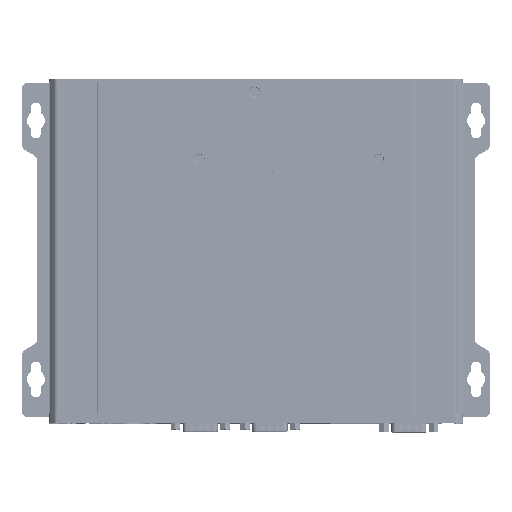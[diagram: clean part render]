
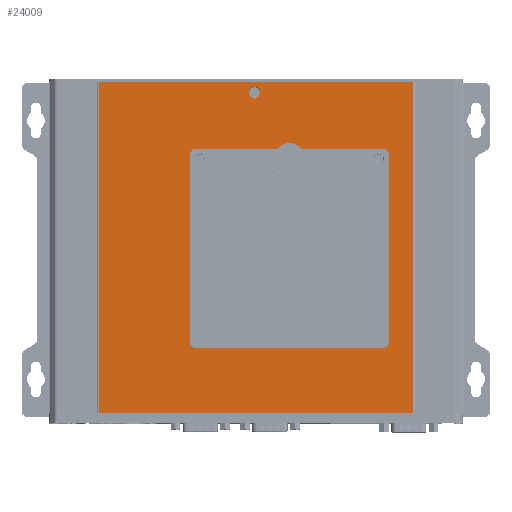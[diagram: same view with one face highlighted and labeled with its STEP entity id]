
A CAD part, top view. The second image highlights one B-rep face of the part: STEP entity #24009.
In plain terms, the highlighted planar face has unit normal (0, 0, 1).
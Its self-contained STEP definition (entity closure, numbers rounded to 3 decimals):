
#24009=ADVANCED_FACE('',(#41194,#41195,#41196),#30401,.F.);
#30401=PLANE('',#207687);
#41194=FACE_BOUND('',#50816,.T.);
#41195=FACE_BOUND('',#50817,.T.);
#41196=FACE_BOUND('',#50818,.T.);
#50816=EDGE_LOOP('',(#137190,#137191,#137192,#137193,#137194,#137195,#137196,
#137197,#137198,#137199,#137200,#137201));
#50817=EDGE_LOOP('',(#137202));
#50818=EDGE_LOOP('',(#137203,#137204,#137205,#137206));
#52661=LINE('',#253760,#70227);
#68106=LINE('',#347838,#87497);
#68107=LINE('',#347843,#87498);
#68108=LINE('',#347851,#87499);
#68109=LINE('',#347855,#87500);
#68110=LINE('',#347859,#87501);
#68111=LINE('',#347864,#87502);
#68112=LINE('',#347867,#87503);
#68113=LINE('',#347868,#87504);
#70227=VECTOR('',#209876,1.);
#87497=VECTOR('',#247272,1.);
#87498=VECTOR('',#247275,1.);
#87499=VECTOR('',#247282,1.);
#87500=VECTOR('',#247285,1.);
#87501=VECTOR('',#247288,1.);
#87502=VECTOR('',#247293,1.);
#87503=VECTOR('',#247294,1.);
#87504=VECTOR('',#247295,1.);
#137190=ORIENTED_EDGE('',*,*,#191069,.F.);
#137191=ORIENTED_EDGE('',*,*,#191070,.T.);
#137192=ORIENTED_EDGE('',*,*,#191071,.F.);
#137193=ORIENTED_EDGE('',*,*,#191072,.F.);
#137194=ORIENTED_EDGE('',*,*,#191073,.T.);
#137195=ORIENTED_EDGE('',*,*,#191074,.F.);
#137196=ORIENTED_EDGE('',*,*,#191075,.F.);
#137197=ORIENTED_EDGE('',*,*,#191076,.T.);
#137198=ORIENTED_EDGE('',*,*,#191077,.F.);
#137199=ORIENTED_EDGE('',*,*,#191078,.T.);
#137200=ORIENTED_EDGE('',*,*,#191079,.F.);
#137201=ORIENTED_EDGE('',*,*,#191080,.T.);
#137202=ORIENTED_EDGE('',*,*,#191081,.T.);
#137203=ORIENTED_EDGE('',*,*,#191082,.F.);
#137204=ORIENTED_EDGE('',*,*,#191083,.T.);
#137205=ORIENTED_EDGE('',*,*,#165488,.F.);
#137206=ORIENTED_EDGE('',*,*,#191084,.T.);
#146805=VERTEX_POINT('',#253759);
#146806=VERTEX_POINT('',#253761);
#164137=VERTEX_POINT('',#347839);
#164138=VERTEX_POINT('',#347840);
#164139=VERTEX_POINT('',#347842);
#164140=VERTEX_POINT('',#347844);
#164141=VERTEX_POINT('',#347846);
#164142=VERTEX_POINT('',#347848);
#164143=VERTEX_POINT('',#347850);
#164144=VERTEX_POINT('',#347852);
#164145=VERTEX_POINT('',#347854);
#164146=VERTEX_POINT('',#347856);
#164147=VERTEX_POINT('',#347858);
#164148=VERTEX_POINT('',#347860);
#164149=VERTEX_POINT('',#347863);
#164150=VERTEX_POINT('',#347865);
#164151=VERTEX_POINT('',#347866);
#165488=EDGE_CURVE('',#146805,#146806,#52661,.T.);
#191069=EDGE_CURVE('',#164137,#164138,#68106,.T.);
#191070=EDGE_CURVE('',#164137,#164139,#197158,.T.);
#191071=EDGE_CURVE('',#164140,#164139,#68107,.T.);
#191072=EDGE_CURVE('',#164141,#164140,#197159,.T.);
#191073=EDGE_CURVE('',#164141,#164142,#197160,.T.);
#191074=EDGE_CURVE('',#164143,#164142,#197161,.T.);
#191075=EDGE_CURVE('',#164144,#164143,#68108,.T.);
#191076=EDGE_CURVE('',#164144,#164145,#197162,.T.);
#191077=EDGE_CURVE('',#164146,#164145,#68109,.T.);
#191078=EDGE_CURVE('',#164146,#164147,#197163,.T.);
#191079=EDGE_CURVE('',#164148,#164147,#68110,.T.);
#191080=EDGE_CURVE('',#164148,#164138,#197164,.T.);
#191081=EDGE_CURVE('',#164149,#164149,#197165,.T.);
#191082=EDGE_CURVE('',#164150,#164151,#68111,.T.);
#191083=EDGE_CURVE('',#164150,#146806,#68112,.T.);
#191084=EDGE_CURVE('',#146805,#164151,#68113,.T.);
#197158=CIRCLE('',#207679,3.3);
#197159=CIRCLE('',#207680,1.7);
#197160=CIRCLE('',#207681,7.);
#197161=CIRCLE('',#207682,1.7);
#197162=CIRCLE('',#207683,3.3);
#197163=CIRCLE('',#207684,3.3);
#197164=CIRCLE('',#207685,3.3);
#197165=CIRCLE('',#207686,2.75);
#207679=AXIS2_PLACEMENT_3D('',#347841,#247273,#247274);
#207680=AXIS2_PLACEMENT_3D('',#347845,#247276,#247277);
#207681=AXIS2_PLACEMENT_3D('',#347847,#247278,#247279);
#207682=AXIS2_PLACEMENT_3D('',#347849,#247280,#247281);
#207683=AXIS2_PLACEMENT_3D('',#347853,#247283,#247284);
#207684=AXIS2_PLACEMENT_3D('',#347857,#247286,#247287);
#207685=AXIS2_PLACEMENT_3D('',#347861,#247289,#247290);
#207686=AXIS2_PLACEMENT_3D('',#347862,#247291,#247292);
#207687=AXIS2_PLACEMENT_3D('',#347869,#247296,#247297);
#209876=DIRECTION('',(-1.,0.,0.));
#247272=DIRECTION('',(0.,-1.,0.));
#247273=DIRECTION('',(0.,0.,-1.));
#247274=DIRECTION('',(-1.,0.,0.));
#247275=DIRECTION('',(-1.,0.,0.));
#247276=DIRECTION('',(0.,0.,-1.));
#247277=DIRECTION('',(-1.,0.,0.));
#247278=DIRECTION('',(0.,0.,-1.));
#247279=DIRECTION('',(-1.,0.,0.));
#247280=DIRECTION('',(0.,0.,-1.));
#247281=DIRECTION('',(-1.,0.,0.));
#247282=DIRECTION('',(-1.,0.,0.));
#247283=DIRECTION('',(0.,0.,-1.));
#247284=DIRECTION('',(-1.,0.,0.));
#247285=DIRECTION('',(0.,1.,0.));
#247286=DIRECTION('',(0.,0.,-1.));
#247287=DIRECTION('',(-1.,0.,0.));
#247288=DIRECTION('',(1.,0.,0.));
#247289=DIRECTION('',(0.,0.,-1.));
#247290=DIRECTION('',(-1.,0.,0.));
#247291=DIRECTION('',(0.,0.,-1.));
#247292=DIRECTION('',(-1.,0.,0.));
#247293=DIRECTION('',(1.,0.,0.));
#247294=DIRECTION('',(0.,-1.,0.));
#247295=DIRECTION('',(0.,1.,0.));
#247296=DIRECTION('',(0.,0.,-1.));
#247297=DIRECTION('',(1.,0.,0.));
#253759=CARTESIAN_POINT('',(75.323,2.5,57.5));
#253760=CARTESIAN_POINT('',(-0.8,2.5,57.5));
#253761=CARTESIAN_POINT('',(-82.523,2.5,57.5));
#347838=CARTESIAN_POINT('',(-36.9,86.5,57.5));
#347839=CARTESIAN_POINT('',(-36.9,131.912,57.5));
#347840=CARTESIAN_POINT('',(-36.9,38.412,57.5));
#347841=CARTESIAN_POINT('',(-33.6,131.912,57.5));
#347842=CARTESIAN_POINT('',(-33.6,135.212,57.5));
#347843=CARTESIAN_POINT('',(-0.8,135.212,57.5));
#347844=CARTESIAN_POINT('',(6.722,135.212,57.5));
#347845=CARTESIAN_POINT('',(6.722,136.912,57.5));
#347846=CARTESIAN_POINT('',(7.978,135.766,57.5));
#347847=CARTESIAN_POINT('',(13.15,131.049,57.5));
#347848=CARTESIAN_POINT('',(18.322,135.766,57.5));
#347849=CARTESIAN_POINT('',(19.578,136.912,57.5));
#347850=CARTESIAN_POINT('',(19.578,135.212,57.5));
#347851=CARTESIAN_POINT('',(-0.8,135.212,57.5));
#347852=CARTESIAN_POINT('',(59.9,135.212,57.5));
#347853=CARTESIAN_POINT('',(59.9,131.912,57.5));
#347854=CARTESIAN_POINT('',(63.2,131.912,57.5));
#347855=CARTESIAN_POINT('',(63.2,86.5,57.5));
#347856=CARTESIAN_POINT('',(63.2,38.412,57.5));
#347857=CARTESIAN_POINT('',(59.9,38.412,57.5));
#347858=CARTESIAN_POINT('',(59.9,35.112,57.5));
#347859=CARTESIAN_POINT('',(-0.8,35.112,57.5));
#347860=CARTESIAN_POINT('',(-33.6,35.112,57.5));
#347861=CARTESIAN_POINT('',(-33.6,38.412,57.5));
#347862=CARTESIAN_POINT('',(-4.25,163.5,57.5));
#347863=CARTESIAN_POINT('',(-7.,163.5,57.5));
#347864=CARTESIAN_POINT('',(-98.1,168.5,57.5));
#347865=CARTESIAN_POINT('',(-82.523,168.5,57.5));
#347866=CARTESIAN_POINT('',(75.323,168.5,57.5));
#347867=CARTESIAN_POINT('',(-82.523,2.5,57.5));
#347868=CARTESIAN_POINT('',(75.323,168.5,57.5));
#347869=CARTESIAN_POINT('',(-0.8,86.5,57.5));
